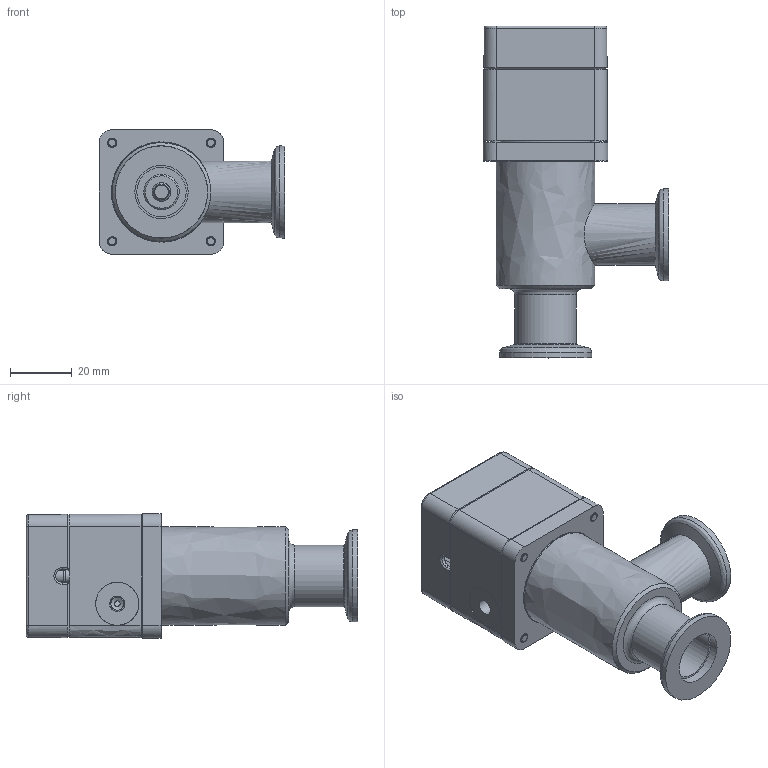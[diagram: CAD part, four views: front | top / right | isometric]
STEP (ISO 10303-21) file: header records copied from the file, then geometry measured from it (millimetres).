
FILE_DESCRIPTION((''),'2;1');
FILE_NAME('C:\TEMP\IDEAS\325391.stp','2006-09-19T12:27:19',('User'),( 'SDRC'),'I-DEAS Master Series 9','UNIX','Yes');
FILE_SCHEMA(('CONFIG_CONTROL_DESIGN'));
Length unit declared in the file: millimetre
Assembly tree (14 placements, depth 0):
Bounding box: 60.2 x 107.7 x 40.4 mm (x, y, z)
Volume: 34497.4 mm3; surface area: 44546.1 mm2
Topology: 11 solids, 13 shells, 490 faces, 1206 edges, 777 vertices
Faces by surface type: bspline 490
Entity records: 16579 total; most frequent: CARTESIAN_POINT 8643, ORIENTED_EDGE 2159, EDGE_CURVE 1081, VERTEX_POINT 696, EDGE_LOOP 507, FACE_OUTER_BOUND 433, ADVANCED_FACE 433, QUASI_UNIFORM_CURVE 390
